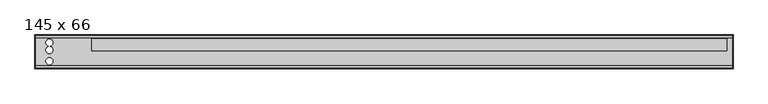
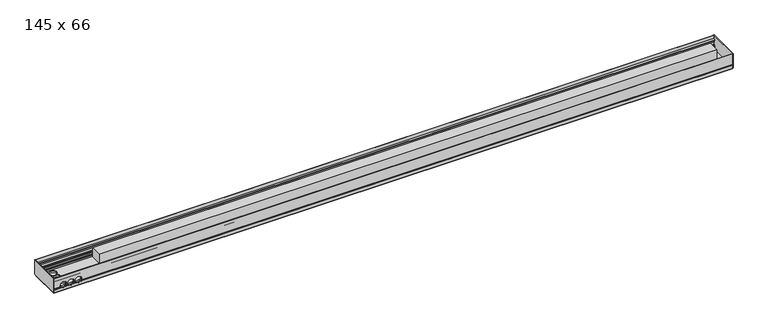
"""IFC4 building model written with IfcOpenShell, lengths in millimetres: proxy geometry, Mohlenhof_Внутрипольный конвектор_QSKM : 145 x 66."""

from ifc_helpers import new_model, si_unit, point, frame, frame_2d, origin, place, context, project, spatial, polyline, circle_curve, ellipse_curve, trimmed, segment, composite_curve, outline, extrude, source, transform, mapped, element, save
from ifc_brep_helpers import plane_surface, revolved_surface, advanced_brep


def proxy_145_x_66_f7945d83(model_context):
    return source(origin(), model_context, "Body", "SolidModel", [
        advanced_brep(
        [(1498.0, -245.0, -48.5473602), (1498.0, -243.5, -49.2468216), (1498.0, -242.5, -49.2468216), (1498.0, -242.5, -46.0008038), (1498.0, -240.0, -46.0008038), (1498.0, -240.0, -56.5008038), (1498.0, -242.5, -56.5008038), (1498.0, -242.5, -53.2468216), (1498.0, -243.5, -53.2468216), (1498.0, -245.0, -53.9462831), (1498.0, -245.0, -66.5), (1498.0, -241.0, -66.5), (1498.0, -241.0, -65.2), (1498.0, -243.0, -65.2), (1498.0, -243.0, -62.5), (1498.0, -232.0, -62.5), (1498.0, -232.0, -54.9172677), (1498.0, -233.4172677, -53.5), (1498.0, -237.0, -53.5), (1498.0, -237.0, -45.91), (1498.0, -239.0, -43.91), (1498.0, -239.0, -39.5), (1498.0, -240.0, -39.5), (1498.0, -240.0, -43.5), (1498.0, -242.4956439, -43.5), (1498.0, -242.4956439, -23.0), (1498.0, -240.0, -23.0), (1498.0, -240.0, -27.0), (1498.0, -239.0, -27.0), (1498.0, -239.0, -17.0), (1498.0, -233.3956439, -17.0), (1498.0, -233.3956439, -15.0), (1498.0, -243.4, -15.0), (1498.0, -243.4, 0.0), (1498.0, -245.0, 0.0), (-1498.0, -245.0, -48.5473602), (-1498.0, -245.0, 0.0), (-1498.0, -243.4, 0.0), (-1498.0, -243.4, -15.0), (-1498.0, -233.3956439, -15.0), (-1498.0, -233.3956439, -17.0), (-1498.0, -239.0, -17.0), (-1498.0, -239.0, -27.0), (-1498.0, -240.0, -27.0), (-1498.0, -240.0, -23.0), (-1498.0, -242.4956439, -23.0), (-1498.0, -242.4956439, -43.5), (-1498.0, -240.0, -43.5), (-1498.0, -240.0, -39.5), (-1498.0, -239.0, -39.5), (-1498.0, -239.0, -43.91), (-1498.0, -237.0, -45.91), (-1498.0, -237.0, -53.5), (-1498.0, -233.4172677, -53.5), (-1498.0, -232.0, -54.9172677), (-1498.0, -232.0, -62.5), (-1498.0, -243.0, -62.5), (-1498.0, -243.0, -65.2), (-1498.0, -241.0, -65.2), (-1498.0, -241.0, -66.5), (-1498.0, -245.0, -66.5), (-1498.0, -245.0, -53.9462831), (-1498.0, -243.5, -53.2468216), (-1498.0, -242.5, -53.2468216), (-1498.0, -242.5, -56.5008038), (-1498.0, -240.0, -56.5008038), (-1498.0, -240.0, -46.0008038), (-1498.0, -242.5, -46.0008038), (-1498.0, -242.5, -49.2468216), (-1498.0, -243.5, -49.2468216), (-1378.7585985, -245.0, -48.5473602), (-1379.155283, -243.5, -49.2468216), (-1470.844717, -243.5, -49.2468216), (-1471.2414015, -245.0, -48.5473602), (-1438.2414015, -245.0, -48.5473602), (-1444.7585985, -245.0, -48.5473602), (-1445.155283, -243.5, -49.2468216), (-1437.844717, -243.5, -49.2468216), (-1405.2414015, -245.0, -48.5473602), (-1411.7585985, -245.0, -48.5473602), (-1412.155283, -243.5, -49.2468216), (-1404.844717, -243.5, -49.2468216), (-1379.155283, -242.5, -49.2468216), (-1470.844717, -242.5, -49.2468216), (-1445.155283, -242.5, -49.2468216), (-1437.844717, -242.5, -49.2468216), (-1412.155283, -242.5, -49.2468216), (-1404.844717, -242.5, -49.2468216), (-1377.6911648, -242.5, -46.0008038), (-1472.3088352, -242.5, -46.0008038), (-1443.6911648, -242.5, -46.0008038), (-1439.3088352, -242.5, -46.0008038), (-1410.6911648, -242.5, -46.0008038), (-1406.3088352, -242.5, -46.0008038), (-1377.6911648, -240.0, -46.0008038), (-1472.3088352, -240.0, -46.0008038), (-1443.6911648, -240.0, -46.0008038), (-1439.3088352, -240.0, -46.0008038), (-1410.6911648, -240.0, -46.0008038), (-1406.3088352, -240.0, -46.0008038), (-1467.328032, -242.5, -53.2468216), (-1448.671968, -242.5, -53.2468216), (-1434.328032, -242.5, -53.2468216), (-1415.671968, -242.5, -53.2468216), (-1401.328032, -242.5, -53.2468216), (-1382.671968, -242.5, -53.2468216), (-1382.671968, -243.5, -53.2468216), (-1467.328032, -243.5, -53.2468216), (-1448.671968, -243.5, -53.2468216), (-1434.328032, -243.5, -53.2468216), (-1415.671968, -243.5, -53.2468216), (-1401.328032, -243.5, -53.2468216), (-1383.6280208, -245.0, -53.9462831), (-1466.3719792, -245.0, -53.9462831), (-1449.6280208, -245.0, -53.9462831), (-1433.3719792, -245.0, -53.9462831), (-1416.6280208, -245.0, -53.9462831), (-1400.3719792, -245.0, -53.9462831), (-1464.7064841, -232.0, -54.9172677), (-1451.2935159, -232.0, -54.9172677), (-1431.7064841, -232.0, -54.9172677), (-1418.2935159, -232.0, -54.9172677), (-1398.7064841, -232.0, -54.9172677), (-1385.2935159, -232.0, -54.9172677), (-1383.0, -233.4172677, -53.5), (-1467.0, -233.4172677, -53.5), (-1449.0, -233.4172677, -53.5), (-1434.0, -233.4172677, -53.5), (-1416.0, -233.4172677, -53.5), (-1401.0, -233.4172677, -53.5), (-1383.0, -237.0, -53.5), (-1467.0, -237.0, -53.5), (-1449.0, -237.0, -53.5), (-1434.0, -237.0, -53.5), (-1416.0, -237.0, -53.5), (-1401.0, -237.0, -53.5), (-1377.6629187, -237.0, -45.91), (-1472.3370813, -237.0, -45.91), (-1443.6629187, -237.0, -45.91), (-1439.3370813, -237.0, -45.91), (-1410.6629187, -237.0, -45.91), (-1406.3370813, -237.0, -45.91), (-1377.1948691, -239.0, -43.91), (-1472.8051309, -239.0, -43.91), (-1443.1948691, -239.0, -43.91), (-1439.8051309, -239.0, -43.91), (-1410.1948691, -239.0, -43.91), (-1406.8051309, -239.0, -43.91), (-1377.0, -239.0, -41.5), (-1377.1339313, -239.0, -39.5), (-1472.8660687, -239.0, -39.5), (-1473.0, -239.0, -41.5), (-1443.0, -239.0, -41.5), (-1443.1339313, -239.0, -39.5), (-1439.8660687, -239.0, -39.5), (-1440.0, -239.0, -41.5), (-1410.0, -239.0, -41.5), (-1410.1339313, -239.0, -39.5), (-1406.8660687, -239.0, -39.5), (-1407.0, -239.0, -41.5), (-1377.1339313, -240.0, -39.5), (-1472.8660687, -240.0, -39.5), (-1443.1339313, -240.0, -39.5), (-1439.8660687, -240.0, -39.5), (-1410.1339313, -240.0, -39.5), (-1406.8660687, -240.0, -39.5), (-1377.0, -240.0, -41.5), (-1377.1339313, -240.0, -43.5), (-1472.8660687, -240.0, -43.5), (-1473.0, -240.0, -41.5), (-1443.0, -240.0, -41.5), (-1443.1339313, -240.0, -43.5), (-1439.8660687, -240.0, -43.5), (-1440.0, -240.0, -41.5), (-1410.0, -240.0, -41.5), (-1410.1339313, -240.0, -43.5), (-1406.8660687, -240.0, -43.5), (-1407.0, -240.0, -41.5), (-1377.1339313, -242.4956439, -43.5), (-1472.8660687, -242.4956439, -43.5), (-1443.1339313, -242.4956439, -43.5), (-1439.8660687, -242.4956439, -43.5), (-1410.1339313, -242.4956439, -43.5), (-1406.8660687, -242.4956439, -43.5), (-1377.0, -242.4956439, -41.5), (-1407.0, -242.4956439, -41.5), (-1410.0, -242.4956439, -41.5), (-1440.0, -242.4956439, -41.5), (-1443.0, -242.4956439, -41.5), (-1473.0, -242.4956439, -41.5), (-1461.8405729, -240.0, -27.0), (-1454.1594271, -240.0, -27.0), (-1428.8405729, -240.0, -27.0), (-1421.1594271, -240.0, -27.0), (-1395.8405729, -240.0, -27.0), (-1388.1594271, -240.0, -27.0), (-1388.1594271, -239.0, -27.0), (-1461.8405729, -239.0, -27.0), (-1454.1594271, -239.0, -27.0), (-1428.8405729, -239.0, -27.0), (-1421.1594271, -239.0, -27.0), (-1395.8405729, -239.0, -27.0), (-1473.0, -245.0, -41.5), (-1443.0, -245.0, -41.5), (-1440.0, -245.0, -41.5), (-1410.0, -245.0, -41.5), (-1407.0, -245.0, -41.5), (-1377.0, -245.0, -41.5)],
        [
            (0, 1),
            (1, 2),
            (2, 3),
            (3, 4),
            (4, 5),
            (5, 6),
            (6, 7),
            (7, 8),
            (8, 9),
            (9, 10),
            (10, 11),
            (11, 12),
            (12, 13),
            (13, 14),
            (14, 15),
            (15, 16),
            (16, 17),
            (17, 18),
            (18, 19),
            (19, 20),
            (20, 21),
            (21, 22),
            (22, 23),
            (23, 24),
            (24, 25),
            (25, 26),
            (26, 27),
            (27, 28),
            (28, 29),
            (29, 30),
            (30, 31),
            (31, 32),
            (32, 33),
            (33, 34),
            (34, 0),
            (35, 36),
            (36, 37),
            (37, 38),
            (38, 39),
            (39, 40),
            (40, 41),
            (41, 42),
            (42, 43),
            (43, 44),
            (44, 45),
            (45, 46),
            (46, 47),
            (47, 48),
            (48, 49),
            (49, 50),
            (50, 51),
            (51, 52),
            (52, 53),
            (53, 54),
            (54, 55),
            (55, 56),
            (56, 57),
            (57, 58),
            (58, 59),
            (59, 60),
            (60, 61),
            (61, 62),
            (62, 63),
            (63, 64),
            (64, 65),
            (65, 66),
            (66, 67),
            (67, 68),
            (68, 69),
            (69, 35),
            (0, 70),
            (70, 71, ellipse_curve(frame((-1392.0, -260.1131126, -41.5), z_axis=(0.0, 0.42261826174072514, 0.9063077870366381), x_axis=(0.0, -0.9063077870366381, 0.42261826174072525)), 35.4930237, 15.0)),
            (71, 1),
            (69, 72),
            (72, 73, ellipse_curve(frame((-1458.0, -260.1131126, -41.5), z_axis=(0.0, 0.42261826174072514, 0.9063077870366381), x_axis=(0.0, -0.9063077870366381, 0.42261826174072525)), 35.4930237, 15.0)),
            (73, 35),
            (74, 75),
            (75, 76, ellipse_curve(frame((-1458.0, -260.1131126, -41.5), z_axis=(0.0, 0.42261826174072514, 0.9063077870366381), x_axis=(0.0, -0.9063077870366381, 0.42261826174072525)), 35.4930237, 15.0)),
            (76, 77),
            (77, 74, ellipse_curve(frame((-1425.0, -260.1131126, -41.5), z_axis=(0.0, 0.42261826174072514, 0.9063077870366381), x_axis=(0.0, -0.9063077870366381, 0.42261826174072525)), 35.4930237, 15.0)),
            (78, 79),
            (79, 80, ellipse_curve(frame((-1425.0, -260.1131126, -41.5), z_axis=(0.0, 0.42261826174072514, 0.9063077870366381), x_axis=(0.0, -0.9063077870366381, 0.42261826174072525)), 35.4930237, 15.0)),
            (80, 81),
            (81, 78, ellipse_curve(frame((-1392.0, -260.1131126, -41.5), z_axis=(0.0, 0.42261826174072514, 0.9063077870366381), x_axis=(0.0, -0.9063077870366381, 0.42261826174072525)), 35.4930237, 15.0)),
            (71, 82),
            (82, 2),
            (68, 83),
            (83, 72),
            (76, 84),
            (84, 85),
            (85, 77),
            (80, 86),
            (86, 87),
            (87, 81),
            (82, 88, circle_curve(frame((-1392.0, -242.5, -41.5), z_axis=(0.0, -1.0, 0.0), x_axis=(1.0, 0.0, 0.0)), 15.0)),
            (88, 3),
            (67, 89),
            (89, 83, circle_curve(frame((-1458.0, -242.5, -41.5), z_axis=(0.0, -1.0, 0.0), x_axis=(1.0, 0.0, 0.0)), 15.0)),
            (84, 90, circle_curve(frame((-1458.0, -242.5, -41.5), z_axis=(0.0, -1.0, 0.0), x_axis=(1.0, 0.0, 0.0)), 15.0)),
            (90, 91),
            (91, 85, circle_curve(frame((-1425.0, -242.5, -41.5), z_axis=(0.0, -1.0, 0.0), x_axis=(1.0, 0.0, 0.0)), 15.0)),
            (86, 92, circle_curve(frame((-1425.0, -242.5, -41.5), z_axis=(0.0, -1.0, 0.0), x_axis=(1.0, 0.0, 0.0)), 15.0)),
            (92, 93),
            (93, 87, circle_curve(frame((-1392.0, -242.5, -41.5), z_axis=(0.0, -1.0, 0.0), x_axis=(1.0, 0.0, 0.0)), 15.0)),
            (88, 94),
            (94, 4),
            (66, 95),
            (95, 89),
            (90, 96),
            (96, 97),
            (97, 91),
            (92, 98),
            (98, 99),
            (99, 93),
            (94, 99, circle_curve(frame((-1392.0, -240.0, -41.5), z_axis=(0.0, 1.0, 0.0), x_axis=(1.0, 0.0, 0.0)), 15.0)),
            (98, 97, circle_curve(frame((-1425.0, -240.0, -41.5), z_axis=(0.0, 1.0, 0.0), x_axis=(1.0, 0.0, 0.0)), 15.0)),
            (96, 95, circle_curve(frame((-1458.0, -240.0, -41.5), z_axis=(0.0, 1.0, 0.0), x_axis=(1.0, 0.0, 0.0)), 15.0)),
            (65, 5),
            (64, 6),
            (63, 100),
            (100, 101, circle_curve(frame((-1458.0, -242.5, -41.5), z_axis=(0.0, -1.0, 0.0), x_axis=(1.0, 0.0, 0.0)), 15.0)),
            (101, 102),
            (102, 103, circle_curve(frame((-1425.0, -242.5, -41.5), z_axis=(0.0, -1.0, 0.0), x_axis=(1.0, 0.0, 0.0)), 15.0)),
            (103, 104),
            (104, 105, circle_curve(frame((-1392.0, -242.5, -41.5), z_axis=(0.0, -1.0, 0.0), x_axis=(1.0, 0.0, 0.0)), 15.0)),
            (105, 7),
            (105, 106),
            (106, 8),
            (62, 107),
            (107, 100),
            (101, 108),
            (108, 109),
            (109, 102),
            (103, 110),
            (110, 111),
            (111, 104),
            (106, 112, ellipse_curve(frame((-1392.0, -218.3088597, -41.5), z_axis=(0.0, 0.42261826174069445, -0.9063077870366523), x_axis=(0.0, -0.9063077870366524, -0.42261826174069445)), 35.4930237, 15.0)),
            (112, 9),
            (61, 113),
            (113, 107, ellipse_curve(frame((-1458.0, -218.3088597, -41.5), z_axis=(0.0, 0.42261826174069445, -0.9063077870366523), x_axis=(0.0, -0.9063077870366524, -0.42261826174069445)), 35.4930237, 15.0)),
            (108, 114, ellipse_curve(frame((-1458.0, -218.3088597, -41.5), z_axis=(0.0, 0.42261826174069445, -0.9063077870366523), x_axis=(0.0, -0.9063077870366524, -0.42261826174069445)), 35.4930237, 15.0)),
            (114, 115),
            (115, 109, ellipse_curve(frame((-1425.0, -218.3088597, -41.5), z_axis=(0.0, 0.42261826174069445, -0.9063077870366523), x_axis=(0.0, -0.9063077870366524, -0.42261826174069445)), 35.4930237, 15.0)),
            (110, 116, ellipse_curve(frame((-1425.0, -218.3088597, -41.5), z_axis=(0.0, 0.42261826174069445, -0.9063077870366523), x_axis=(0.0, -0.9063077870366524, -0.42261826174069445)), 35.4930237, 15.0)),
            (116, 117),
            (117, 111, ellipse_curve(frame((-1392.0, -218.3088597, -41.5), z_axis=(0.0, 0.42261826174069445, -0.9063077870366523), x_axis=(0.0, -0.9063077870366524, -0.42261826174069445)), 35.4930237, 15.0)),
            (112, 117, circle_curve(frame((-1392.0, -245.0, -41.5), z_axis=(0.0, 1.0, 0.0), x_axis=(1.0, 0.0, 0.0)), 15.0)),
            (116, 115, circle_curve(frame((-1425.0, -245.0, -41.5), z_axis=(0.0, 1.0, 0.0), x_axis=(1.0, 0.0, 0.0)), 15.0)),
            (114, 113, circle_curve(frame((-1458.0, -245.0, -41.5), z_axis=(0.0, 1.0, 0.0), x_axis=(1.0, 0.0, 0.0)), 15.0)),
            (60, 10),
            (59, 11),
            (58, 12),
            (57, 13),
            (56, 14),
            (55, 15),
            (54, 118),
            (118, 119, circle_curve(frame((-1458.0, -232.0, -41.5), z_axis=(0.0, -1.0, 0.0), x_axis=(1.0, 0.0, 0.0)), 15.0)),
            (119, 120),
            (120, 121, circle_curve(frame((-1425.0, -232.0, -41.5), z_axis=(0.0, -1.0, 0.0), x_axis=(1.0, 0.0, 0.0)), 15.0)),
            (121, 122),
            (122, 123, circle_curve(frame((-1392.0, -232.0, -41.5), z_axis=(0.0, -1.0, 0.0), x_axis=(1.0, 0.0, 0.0)), 15.0)),
            (123, 16),
            (123, 124, ellipse_curve(frame((-1392.0, -245.4172677, -41.5), z_axis=(0.0, -0.7071067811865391, -0.707106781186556), x_axis=(0.0, -0.7071067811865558, 0.7071067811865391)), 21.2132034, 15.0)),
            (124, 17),
            (53, 125),
            (125, 118, ellipse_curve(frame((-1458.0, -245.4172677, -41.5), z_axis=(0.0, -0.7071067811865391, -0.707106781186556), x_axis=(0.0, -0.7071067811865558, 0.7071067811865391)), 21.2132034, 15.0)),
            (119, 126, ellipse_curve(frame((-1458.0, -245.4172677, -41.5), z_axis=(0.0, -0.7071067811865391, -0.707106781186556), x_axis=(0.0, -0.7071067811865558, 0.7071067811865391)), 21.2132034, 15.0)),
            (126, 127),
            (127, 120, ellipse_curve(frame((-1425.0, -245.4172677, -41.5), z_axis=(0.0, -0.7071067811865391, -0.707106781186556), x_axis=(0.0, -0.7071067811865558, 0.7071067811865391)), 21.2132034, 15.0)),
            (121, 128, ellipse_curve(frame((-1425.0, -245.4172677, -41.5), z_axis=(0.0, -0.7071067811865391, -0.707106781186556), x_axis=(0.0, -0.7071067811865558, 0.7071067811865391)), 21.2132034, 15.0)),
            (128, 129),
            (129, 122, ellipse_curve(frame((-1392.0, -245.4172677, -41.5), z_axis=(0.0, -0.7071067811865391, -0.707106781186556), x_axis=(0.0, -0.7071067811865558, 0.7071067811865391)), 21.2132034, 15.0)),
            (124, 130),
            (130, 18),
            (52, 131),
            (131, 125),
            (126, 132),
            (132, 133),
            (133, 127),
            (128, 134),
            (134, 135),
            (135, 129),
            (130, 136, circle_curve(frame((-1392.0, -237.0, -41.5), z_axis=(0.0, -1.0, 0.0), x_axis=(1.0, 0.0, 0.0)), 15.0)),
            (136, 19),
            (51, 137),
            (137, 131, circle_curve(frame((-1458.0, -237.0, -41.5), z_axis=(0.0, -1.0, 0.0), x_axis=(1.0, 0.0, 0.0)), 15.0)),
            (132, 138, circle_curve(frame((-1458.0, -237.0, -41.5), z_axis=(0.0, -1.0, 0.0), x_axis=(1.0, 0.0, 0.0)), 15.0)),
            (138, 139),
            (139, 133, circle_curve(frame((-1425.0, -237.0, -41.5), z_axis=(0.0, -1.0, 0.0), x_axis=(1.0, 0.0, 0.0)), 15.0)),
            (134, 140, circle_curve(frame((-1425.0, -237.0, -41.5), z_axis=(0.0, -1.0, 0.0), x_axis=(1.0, 0.0, 0.0)), 15.0)),
            (140, 141),
            (141, 135, circle_curve(frame((-1392.0, -237.0, -41.5), z_axis=(0.0, -1.0, 0.0), x_axis=(1.0, 0.0, 0.0)), 15.0)),
            (136, 142, ellipse_curve(frame((-1392.0, -241.41, -41.5), z_axis=(0.0, -0.7071067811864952, -0.7071067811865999), x_axis=(0.0, -0.7071067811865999, 0.7071067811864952)), 21.2132034, 15.0)),
            (142, 20),
            (50, 143),
            (143, 137, ellipse_curve(frame((-1458.0, -241.41, -41.5), z_axis=(0.0, -0.7071067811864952, -0.7071067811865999), x_axis=(0.0, -0.7071067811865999, 0.7071067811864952)), 21.2132034, 15.0)),
            (138, 144, ellipse_curve(frame((-1458.0, -241.41, -41.5), z_axis=(0.0, -0.7071067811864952, -0.7071067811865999), x_axis=(0.0, -0.7071067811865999, 0.7071067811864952)), 21.2132034, 15.0)),
            (144, 145),
            (145, 139, ellipse_curve(frame((-1425.0, -241.41, -41.5), z_axis=(0.0, -0.7071067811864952, -0.7071067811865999), x_axis=(0.0, -0.7071067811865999, 0.7071067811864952)), 21.2132034, 15.0)),
            (140, 146, ellipse_curve(frame((-1425.0, -241.41, -41.5), z_axis=(0.0, -0.7071067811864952, -0.7071067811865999), x_axis=(0.0, -0.7071067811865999, 0.7071067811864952)), 21.2132034, 15.0)),
            (146, 147),
            (147, 141, ellipse_curve(frame((-1392.0, -241.41, -41.5), z_axis=(0.0, -0.7071067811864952, -0.7071067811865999), x_axis=(0.0, -0.7071067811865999, 0.7071067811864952)), 21.2132034, 15.0)),
            (142, 148, circle_curve(frame((-1392.0, -239.0, -41.5), z_axis=(0.0, -1.0, 0.0), x_axis=(1.0, 0.0, 0.0)), 15.0)),
            (148, 149, circle_curve(frame((-1392.0, -239.0, -41.5), z_axis=(0.0, -1.0, 0.0), x_axis=(1.0, 0.0, 0.0)), 15.0)),
            (149, 21),
            (49, 150),
            (150, 151, circle_curve(frame((-1458.0, -239.0, -41.5), z_axis=(0.0, -1.0, 0.0), x_axis=(1.0, 0.0, 0.0)), 15.0)),
            (151, 143, circle_curve(frame((-1458.0, -239.0, -41.5), z_axis=(0.0, -1.0, 0.0), x_axis=(1.0, 0.0, 0.0)), 15.0)),
            (144, 152, circle_curve(frame((-1458.0, -239.0, -41.5), z_axis=(0.0, -1.0, 0.0), x_axis=(1.0, 0.0, 0.0)), 15.0)),
            (152, 153, circle_curve(frame((-1458.0, -239.0, -41.5), z_axis=(0.0, -1.0, 0.0), x_axis=(1.0, 0.0, 0.0)), 15.0)),
            (153, 154),
            (154, 155, circle_curve(frame((-1425.0, -239.0, -41.5), z_axis=(0.0, -1.0, 0.0), x_axis=(1.0, 0.0, 0.0)), 15.0)),
            (155, 145, circle_curve(frame((-1425.0, -239.0, -41.5), z_axis=(0.0, -1.0, 0.0), x_axis=(1.0, 0.0, 0.0)), 15.0)),
            (146, 156, circle_curve(frame((-1425.0, -239.0, -41.5), z_axis=(0.0, -1.0, 0.0), x_axis=(1.0, 0.0, 0.0)), 15.0)),
            (156, 157, circle_curve(frame((-1425.0, -239.0, -41.5), z_axis=(0.0, -1.0, 0.0), x_axis=(1.0, 0.0, 0.0)), 15.0)),
            (157, 158),
            (158, 159, circle_curve(frame((-1392.0, -239.0, -41.5), z_axis=(0.0, -1.0, 0.0), x_axis=(1.0, 0.0, 0.0)), 15.0)),
            (159, 147, circle_curve(frame((-1392.0, -239.0, -41.5), z_axis=(0.0, -1.0, 0.0), x_axis=(1.0, 0.0, 0.0)), 15.0)),
            (149, 160),
            (160, 22),
            (48, 161),
            (161, 150),
            (153, 162),
            (162, 163),
            (163, 154),
            (157, 164),
            (164, 165),
            (165, 158),
            (160, 166, circle_curve(frame((-1392.0, -240.0, -41.5), z_axis=(0.0, 1.0, 0.0), x_axis=(1.0, 0.0, 0.0)), 15.0)),
            (166, 167, circle_curve(frame((-1392.0, -240.0, -41.5), z_axis=(0.0, 1.0, 0.0), x_axis=(1.0, 0.0, 0.0)), 15.0)),
            (167, 23),
            (47, 168),
            (168, 169, circle_curve(frame((-1458.0, -240.0, -41.5), z_axis=(0.0, 1.0, 0.0), x_axis=(1.0, 0.0, 0.0)), 15.0)),
            (169, 161, circle_curve(frame((-1458.0, -240.0, -41.5), z_axis=(0.0, 1.0, 0.0), x_axis=(1.0, 0.0, 0.0)), 15.0)),
            (162, 170, circle_curve(frame((-1458.0, -240.0, -41.5), z_axis=(0.0, 1.0, 0.0), x_axis=(1.0, 0.0, 0.0)), 15.0)),
            (170, 171, circle_curve(frame((-1458.0, -240.0, -41.5), z_axis=(0.0, 1.0, 0.0), x_axis=(1.0, 0.0, 0.0)), 15.0)),
            (171, 172),
            (172, 173, circle_curve(frame((-1425.0, -240.0, -41.5), z_axis=(0.0, 1.0, 0.0), x_axis=(1.0, 0.0, 0.0)), 15.0)),
            (173, 163, circle_curve(frame((-1425.0, -240.0, -41.5), z_axis=(0.0, 1.0, 0.0), x_axis=(1.0, 0.0, 0.0)), 15.0)),
            (164, 174, circle_curve(frame((-1425.0, -240.0, -41.5), z_axis=(0.0, 1.0, 0.0), x_axis=(1.0, 0.0, 0.0)), 15.0)),
            (174, 175, circle_curve(frame((-1425.0, -240.0, -41.5), z_axis=(0.0, 1.0, 0.0), x_axis=(1.0, 0.0, 0.0)), 15.0)),
            (175, 176),
            (176, 177, circle_curve(frame((-1392.0, -240.0, -41.5), z_axis=(0.0, 1.0, 0.0), x_axis=(1.0, 0.0, 0.0)), 15.0)),
            (177, 165, circle_curve(frame((-1392.0, -240.0, -41.5), z_axis=(0.0, 1.0, 0.0), x_axis=(1.0, 0.0, 0.0)), 15.0)),
            (167, 178),
            (178, 24),
            (46, 179),
            (179, 168),
            (171, 180),
            (180, 181),
            (181, 172),
            (175, 182),
            (182, 183),
            (183, 176),
            (178, 184, circle_curve(frame((-1392.0, -242.4956439, -41.5), z_axis=(0.0, -1.0, 0.0), x_axis=(1.0, 0.0, 0.0)), 15.0)),
            (184, 185, circle_curve(frame((-1392.0, -242.4956439, -41.5), z_axis=(0.0, -1.0, 0.0), x_axis=(1.0, 0.0, 0.0)), 15.0)),
            (185, 183, circle_curve(frame((-1392.0, -242.4956439, -41.5), z_axis=(0.0, -1.0, 0.0), x_axis=(1.0, 0.0, 0.0)), 15.0)),
            (182, 186, circle_curve(frame((-1425.0, -242.4956439, -41.5), z_axis=(0.0, -1.0, 0.0), x_axis=(1.0, 0.0, 0.0)), 15.0)),
            (186, 187, circle_curve(frame((-1425.0, -242.4956439, -41.5), z_axis=(0.0, -1.0, 0.0), x_axis=(1.0, 0.0, 0.0)), 15.0)),
            (187, 181, circle_curve(frame((-1425.0, -242.4956439, -41.5), z_axis=(0.0, -1.0, 0.0), x_axis=(1.0, 0.0, 0.0)), 15.0)),
            (180, 188, circle_curve(frame((-1458.0, -242.4956439, -41.5), z_axis=(0.0, -1.0, 0.0), x_axis=(1.0, 0.0, 0.0)), 15.0)),
            (188, 189, circle_curve(frame((-1458.0, -242.4956439, -41.5), z_axis=(0.0, -1.0, 0.0), x_axis=(1.0, 0.0, 0.0)), 15.0)),
            (189, 179, circle_curve(frame((-1458.0, -242.4956439, -41.5), z_axis=(0.0, -1.0, 0.0), x_axis=(1.0, 0.0, 0.0)), 15.0)),
            (45, 25),
            (44, 26),
            (43, 190),
            (190, 191, circle_curve(frame((-1458.0, -240.0, -41.5), z_axis=(0.0, 1.0, 0.0), x_axis=(1.0, 0.0, 0.0)), 15.0)),
            (191, 192),
            (192, 193, circle_curve(frame((-1425.0, -240.0, -41.5), z_axis=(0.0, 1.0, 0.0), x_axis=(1.0, 0.0, 0.0)), 15.0)),
            (193, 194),
            (194, 195, circle_curve(frame((-1392.0, -240.0, -41.5), z_axis=(0.0, 1.0, 0.0), x_axis=(1.0, 0.0, 0.0)), 15.0)),
            (195, 27),
            (195, 196),
            (196, 28),
            (42, 197),
            (197, 190),
            (191, 198),
            (198, 199),
            (199, 192),
            (193, 200),
            (200, 201),
            (201, 194),
            (196, 201, circle_curve(frame((-1392.0, -239.0, -41.5), z_axis=(0.0, -1.0, 0.0), x_axis=(1.0, 0.0, 0.0)), 15.0)),
            (200, 199, circle_curve(frame((-1425.0, -239.0, -41.5), z_axis=(0.0, -1.0, 0.0), x_axis=(1.0, 0.0, 0.0)), 15.0)),
            (198, 197, circle_curve(frame((-1458.0, -239.0, -41.5), z_axis=(0.0, -1.0, 0.0), x_axis=(1.0, 0.0, 0.0)), 15.0)),
            (41, 29),
            (40, 30),
            (39, 31),
            (38, 32),
            (37, 33),
            (36, 34),
            (73, 202, circle_curve(frame((-1458.0, -245.0, -41.5), z_axis=(0.0, 1.0, 0.0), x_axis=(1.0, 0.0, 0.0)), 15.0)),
            (202, 203, circle_curve(frame((-1458.0, -245.0, -41.5), z_axis=(0.0, 1.0, 0.0), x_axis=(1.0, 0.0, 0.0)), 15.0)),
            (203, 75, circle_curve(frame((-1458.0, -245.0, -41.5), z_axis=(0.0, 1.0, 0.0), x_axis=(1.0, 0.0, 0.0)), 15.0)),
            (74, 204, circle_curve(frame((-1425.0, -245.0, -41.5), z_axis=(0.0, 1.0, 0.0), x_axis=(1.0, 0.0, 0.0)), 15.0)),
            (204, 205, circle_curve(frame((-1425.0, -245.0, -41.5), z_axis=(0.0, 1.0, 0.0), x_axis=(1.0, 0.0, 0.0)), 15.0)),
            (205, 79, circle_curve(frame((-1425.0, -245.0, -41.5), z_axis=(0.0, 1.0, 0.0), x_axis=(1.0, 0.0, 0.0)), 15.0)),
            (78, 206, circle_curve(frame((-1392.0, -245.0, -41.5), z_axis=(0.0, 1.0, 0.0), x_axis=(1.0, 0.0, 0.0)), 15.0)),
            (206, 207, circle_curve(frame((-1392.0, -245.0, -41.5), z_axis=(0.0, 1.0, 0.0), x_axis=(1.0, 0.0, 0.0)), 15.0)),
            (207, 70, circle_curve(frame((-1392.0, -245.0, -41.5), z_axis=(0.0, 1.0, 0.0), x_axis=(1.0, 0.0, 0.0)), 15.0)),
            (151, 169),
            (189, 202),
            (203, 188),
            (170, 152),
            (155, 173),
            (187, 204),
            (205, 186),
            (174, 156),
            (159, 177),
            (185, 206),
            (207, 184),
            (166, 148),
        ],
        [
            plane_surface(frame((1498.0, -243.0, -62.5), z_axis=(1.0, 0.0, 0.0), x_axis=(0.0, 0.0, 1.0))),
            plane_surface(frame((-1498.0, -243.0, -62.5), z_axis=(-1.0, 0.0, 0.0), x_axis=(0.0, 0.0, 1.0))),
            plane_surface(frame((1498.0, -245.0, -48.5473602), z_axis=(0.0, -0.42261826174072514, -0.9063077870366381), x_axis=(-1.0, 0.0, 0.0))),
            plane_surface(frame((1498.0, -243.5, -49.2468216), z_axis=(0.0, 0.0, -1.0), x_axis=(-1.0, 0.0, 0.0))),
            plane_surface(frame((1498.0, -242.5, -49.2468216), z_axis=(0.0, 1.0, 0.0), x_axis=(-1.0, 0.0, 0.0))),
            plane_surface(frame((1498.0, -242.5, -46.0008038), z_axis=(0.0, 0.0, -1.0), x_axis=(-1.0, 0.0, 0.0))),
            plane_surface(frame((1498.0, -240.0, -46.0008038), z_axis=(0.0, -1.0, 0.0), x_axis=(-1.0, 0.0, 0.0))),
            plane_surface(frame((1498.0, -240.0, -56.5008038), z_axis=(0.0, 0.0, 1.0), x_axis=(-1.0, 0.0, 0.0))),
            plane_surface(frame((1498.0, -242.5, -56.5008038), z_axis=(0.0, 1.0, 0.0), x_axis=(-1.0, 0.0, 0.0))),
            plane_surface(frame((1498.0, -242.5, -53.2468216), z_axis=(0.0, 0.0, 1.0), x_axis=(-1.0, 0.0, 0.0))),
            plane_surface(frame((1498.0, -243.5, -53.2468216), z_axis=(0.0, -0.42261826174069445, 0.9063077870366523), x_axis=(-1.0, 0.0, 0.0))),
            plane_surface(frame((1498.0, -245.0, -53.9462831), z_axis=(0.0, -1.0, 0.0), x_axis=(-1.0, 0.0, 0.0))),
            plane_surface(frame((1498.0, -245.0, -66.5), z_axis=(0.0, 0.0, -1.0), x_axis=(-1.0, 0.0, 0.0))),
            plane_surface(frame((1498.0, -241.0, -66.5), z_axis=(0.0, 1.0, 0.0), x_axis=(-1.0, 0.0, 0.0))),
            plane_surface(frame((1498.0, -241.0, -65.2), z_axis=(0.0, 0.0, 1.0), x_axis=(-1.0, 0.0, 0.0))),
            plane_surface(frame((1498.0, -243.0, -65.2), z_axis=(0.0, 1.0, 0.0), x_axis=(-1.0, 0.0, 0.0))),
            plane_surface(frame((1498.0, -243.0, -62.5), z_axis=(0.0, 0.0, -1.0), x_axis=(-1.0, 0.0, 0.0))),
            plane_surface(frame((1498.0, -232.0, -62.5), z_axis=(0.0, 1.0, 0.0), x_axis=(-1.0, 0.0, 0.0))),
            plane_surface(frame((1498.0, -232.0, -54.9172677), z_axis=(0.0, 0.7071067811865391, 0.707106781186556), x_axis=(-1.0, 0.0, 0.0))),
            plane_surface(frame((1498.0, -233.4172677, -53.5), z_axis=(0.0, 0.0, 1.0), x_axis=(-1.0, 0.0, 0.0))),
            plane_surface(frame((1498.0, -237.0, -53.5), z_axis=(0.0, 1.0, 0.0), x_axis=(-1.0, 0.0, 0.0))),
            plane_surface(frame((1498.0, -237.0, -45.91), z_axis=(0.0, 0.7071067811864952, 0.7071067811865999), x_axis=(-1.0, 0.0, 0.0))),
            plane_surface(frame((1498.0, -239.0, -43.91), z_axis=(0.0, 1.0, 0.0), x_axis=(-1.0, 0.0, 0.0))),
            plane_surface(frame((1498.0, -239.0, -39.5), z_axis=(0.0, 0.0, 1.0), x_axis=(-1.0, 0.0, 0.0))),
            plane_surface(frame((1498.0, -240.0, -39.5), z_axis=(0.0, -1.0, 0.0), x_axis=(-1.0, 0.0, 0.0))),
            plane_surface(frame((1498.0, -240.0, -43.5), z_axis=(0.0, 0.0, 1.0), x_axis=(-1.0, 0.0, 0.0))),
            plane_surface(frame((1498.0, -242.4956439, -43.5), z_axis=(0.0, 1.0, 0.0), x_axis=(-1.0, 0.0, 0.0))),
            plane_surface(frame((1498.0, -242.4956439, -23.0), z_axis=(0.0, 0.0, -1.0), x_axis=(-1.0, 0.0, 0.0))),
            plane_surface(frame((1498.0, -240.0, -23.0), z_axis=(0.0, -1.0, 0.0), x_axis=(-1.0, 0.0, 0.0))),
            plane_surface(frame((1498.0, -240.0, -27.0), z_axis=(0.0, 0.0, -1.0), x_axis=(-1.0, 0.0, 0.0))),
            plane_surface(frame((1498.0, -239.0, -27.0), z_axis=(0.0, 1.0, 0.0), x_axis=(-1.0, 0.0, 0.0))),
            plane_surface(frame((1498.0, -239.0, -17.0), z_axis=(0.0, 0.0, -1.0), x_axis=(-1.0, 0.0, 0.0))),
            plane_surface(frame((1498.0, -233.3956439, -17.0), z_axis=(0.0, 1.0, 0.0), x_axis=(-1.0, 0.0, 0.0))),
            plane_surface(frame((1498.0, -233.3956439, -15.0), z_axis=(0.0, 0.0, 1.0), x_axis=(-1.0, 0.0, 0.0))),
            plane_surface(frame((1498.0, -243.4, -15.0), z_axis=(0.0, 1.0, 0.0), x_axis=(-1.0, 0.0, 0.0))),
            plane_surface(frame((1498.0, -243.4, 0.0), z_axis=(0.0, 0.0, 1.0), x_axis=(-1.0, 0.0, 0.0))),
            plane_surface(frame((1498.0, -245.0, 0.0), z_axis=(0.0, -1.0, 0.0), x_axis=(-1.0, 0.0, 0.0))),
            revolved_surface(polyline([(-1443.0, -250.47646346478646, -41.5), (-1443.0, -186.14125593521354, -41.5)]), (-1458.0, -213.0, -41.5), (0.0, -1.0, 0.0)),
            revolved_surface(polyline([(-1443.0, -292.280716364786, -41.5), (-1443.0, -226.41000002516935, -41.5)]), (-1458.0, -213.0, -41.5), (0.0, -1.0, 0.0)),
            revolved_surface(polyline([(-1443.0, -240.0, -41.5), (-1443.0, -239.0, -41.5)]), (-1458.0, -213.0, -41.5), (0.0, -1.0, 0.0)),
            revolved_surface(polyline([(-1443.0, -245.0, -41.5), (-1443.0, -242.4956439, -41.5)]), (-1458.0, -213.0, -41.5), (0.0, -1.0, 0.0)),
            revolved_surface(polyline([(-1410.0, -250.47646346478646, -41.5), (-1410.0, -186.14125593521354, -41.5)]), (-1425.0, 0.0, -41.5), (0.0, -1.0, 0.0)),
            revolved_surface(polyline([(-1410.0, -292.280716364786, -41.5), (-1410.0, -226.41000002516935, -41.5)]), (-1425.0, 0.0, -41.5), (0.0, -1.0, 0.0)),
            revolved_surface(polyline([(-1410.0, -240.0, -41.5), (-1410.0, -239.0, -41.5)]), (-1425.0, 0.0, -41.5), (0.0, -1.0, 0.0)),
            revolved_surface(polyline([(-1410.0, -245.0, -41.5), (-1410.0, -242.4956439, -41.5)]), (-1425.0, 0.0, -41.5), (0.0, -1.0, 0.0)),
            revolved_surface(polyline([(-1377.0, -250.47646346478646, -41.5), (-1377.0, -186.14125593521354, -41.5)]), (-1392.0, 0.0, -41.5), (0.0, -1.0, 0.0)),
            revolved_surface(polyline([(-1377.0, -292.280716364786, -41.5), (-1377.0, -226.41000002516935, -41.5)]), (-1392.0, 0.0, -41.5), (0.0, -1.0, 0.0)),
            revolved_surface(polyline([(-1377.0, -240.0, -41.5), (-1377.0, -239.0, -41.5)]), (-1392.0, 0.0, -41.5), (0.0, -1.0, 0.0)),
            revolved_surface(polyline([(-1377.0, -245.0, -41.5), (-1377.0, -242.4956439, -41.5)]), (-1392.0, 0.0, -41.5), (0.0, -1.0, 0.0)),
        ],
        [
            (0, [[1, 2, 3, 4, 5, 6, 7, 8, 9, 10, 11, 12, 13, 14, 15, 16, 17, 18, 19, 20, 21, 22, 23, 24, 25, 26, 27, 28, 29, 30, 31, 32, 33, 34, 35]]),
            (1, [[36, 37, 38, 39, 40, 41, 42, 43, 44, 45, 46, 47, 48, 49, 50, 51, 52, 53, 54, 55, 56, 57, 58, 59, 60, 61, 62, 63, 64, 65, 66, 67, 68, 69, 70]]),
            (2, [[-1, 71, 72, 73]]),
            (2, [[-70, 74, 75, 76]]),
            (2, [[77, 78, 79, 80]]),
            (2, [[81, 82, 83, 84]]),
            (3, [[-2, -73, 85, 86]]),
            (3, [[-69, 87, 88, -74]]),
            (3, [[-79, 89, 90, 91]]),
            (3, [[-83, 92, 93, 94]]),
            (4, [[-3, -86, 95, 96]]),
            (4, [[-68, 97, 98, -87]]),
            (4, [[-90, 99, 100, 101]]),
            (4, [[-93, 102, 103, 104]]),
            (5, [[-4, -96, 105, 106]]),
            (5, [[-67, 107, 108, -97]]),
            (5, [[-100, 109, 110, 111]]),
            (5, [[-103, 112, 113, 114]]),
            (6, [[-5, -106, 115, -113, 116, -110, 117, -107, -66, 118]]),
            (7, [[-6, -118, -65, 119]]),
            (8, [[-7, -119, -64, 120, 121, 122, 123, 124, 125, 126]]),
            (9, [[-8, -126, 127, 128]]),
            (9, [[-63, 129, 130, -120]]),
            (9, [[-122, 131, 132, 133]]),
            (9, [[-124, 134, 135, 136]]),
            (10, [[-9, -128, 137, 138]]),
            (10, [[-62, 139, 140, -129]]),
            (10, [[-132, 141, 142, 143]]),
            (10, [[-135, 144, 145, 146]]),
            (11, [[-10, -138, 147, -145, 148, -142, 149, -139, -61, 150]]),
            (12, [[-11, -150, -60, 151]]),
            (13, [[-12, -151, -59, 152]]),
            (14, [[-13, -152, -58, 153]]),
            (15, [[-14, -153, -57, 154]]),
            (16, [[-15, -154, -56, 155]]),
            (17, [[-16, -155, -55, 156, 157, 158, 159, 160, 161, 162]]),
            (18, [[-17, -162, 163, 164]]),
            (18, [[-54, 165, 166, -156]]),
            (18, [[-158, 167, 168, 169]]),
            (18, [[-160, 170, 171, 172]]),
            (19, [[-18, -164, 173, 174]]),
            (19, [[-53, 175, 176, -165]]),
            (19, [[-168, 177, 178, 179]]),
            (19, [[-171, 180, 181, 182]]),
            (20, [[-19, -174, 183, 184]]),
            (20, [[-52, 185, 186, -175]]),
            (20, [[-178, 187, 188, 189]]),
            (20, [[-181, 190, 191, 192]]),
            (21, [[-20, -184, 193, 194]]),
            (21, [[-51, 195, 196, -185]]),
            (21, [[-188, 197, 198, 199]]),
            (21, [[-191, 200, 201, 202]]),
            (22, [[-21, -194, 203, 204, 205]]),
            (22, [[-50, 206, 207, 208, -195]]),
            (22, [[-198, 209, 210, 211, 212, 213]]),
            (22, [[-201, 214, 215, 216, 217, 218]]),
            (23, [[-22, -205, 219, 220]]),
            (23, [[-49, 221, 222, -206]]),
            (23, [[-211, 223, 224, 225]]),
            (23, [[-216, 226, 227, 228]]),
            (24, [[-23, -220, 229, 230, 231]]),
            (24, [[-48, 232, 233, 234, -221]]),
            (24, [[-224, 235, 236, 237, 238, 239]]),
            (24, [[-227, 240, 241, 242, 243, 244]]),
            (25, [[-24, -231, 245, 246]]),
            (25, [[-47, 247, 248, -232]]),
            (25, [[-237, 249, 250, 251]]),
            (25, [[-242, 252, 253, 254]]),
            (26, [[-25, -246, 255, 256, 257, -253, 258, 259, 260, -250, 261, 262, 263, -247, -46, 264]]),
            (27, [[-26, -264, -45, 265]]),
            (28, [[-27, -265, -44, 266, 267, 268, 269, 270, 271, 272]]),
            (29, [[-28, -272, 273, 274]]),
            (29, [[-43, 275, 276, -266]]),
            (29, [[-268, 277, 278, 279]]),
            (29, [[-270, 280, 281, 282]]),
            (30, [[-29, -274, 283, -281, 284, -278, 285, -275, -42, 286]]),
            (31, [[-30, -286, -41, 287]]),
            (32, [[-31, -287, -40, 288]]),
            (33, [[-32, -288, -39, 289]]),
            (34, [[-33, -289, -38, 290]]),
            (35, [[-34, -290, -37, 291]]),
            (36, [[-35, -291, -36, -76, 292, 293, 294, -77, 295, 296, 297, -81, 298, 299, 300, -71]]),
            (37, [[-121, -130, -140, -149, -141, -131]]),
            (38, [[301, -233, -248, -263, 302, -292, -75, -88, -98, -108, -117, -109, -99, -89, -78, -294, 303, -261, -249, -236, 304, -209, -197, -187, -177, -167, -157, -166, -176, -186, -196, -208]]),
            (39, [[-267, -276, -285, -277]]),
            (39, [[-301, -207, -222, -234]]),
            (40, [[-302, -262, -303, -293]]),
            (39, [[-304, -235, -223, -210]]),
            (41, [[-123, -133, -143, -148, -144, -134]]),
            (42, [[305, -238, -251, -260, 306, -295, -80, -91, -101, -111, -116, -112, -102, -92, -82, -297, 307, -258, -252, -241, 308, -214, -200, -190, -180, -170, -159, -169, -179, -189, -199, -213]]),
            (43, [[-269, -279, -284, -280]]),
            (43, [[-305, -212, -225, -239]]),
            (44, [[-306, -259, -307, -296]]),
            (43, [[-308, -240, -226, -215]]),
            (45, [[-125, -136, -146, -147, -137, -127]]),
            (46, [[309, -243, -254, -257, 310, -298, -84, -94, -104, -114, -115, -105, -95, -85, -72, -300, 311, -255, -245, -230, 312, -203, -193, -183, -173, -163, -161, -172, -182, -192, -202, -218]]),
            (47, [[-271, -282, -283, -273]]),
            (47, [[-309, -217, -228, -244]]),
            (48, [[-310, -256, -311, -299]]),
            (47, [[-312, -229, -219, -204]]),
        ],
    ),
        extrude(outline(polyline([(-100.0, -48.5473602), (-101.5, -49.2468216), (-102.5, -49.2468216), (-102.5, -46.0008038), (-105.0, -46.0008038), (-105.0, -56.5008038), (-102.5, -56.5008038), (-102.5, -53.2468216), (-101.5, -53.2468216), (-100.0, -53.9462831), (-100.0, -66.5), (-104.0, -66.5), (-104.0, -65.2), (-102.0, -65.2), (-102.0, -62.5), (-113.0, -62.5), (-113.0, -54.9172677), (-111.5827323, -53.5), (-108.0, -53.5), (-108.0, -45.91), (-106.0, -43.91), (-106.0, -39.5), (-105.0, -39.5), (-105.0, -43.5), (-102.5043561, -43.5), (-102.5043561, -23.0), (-105.0, -23.0), (-105.0, -27.0), (-106.0, -27.0), (-106.0, -17.0), (-111.6043561, -17.0), (-111.6043561, -15.0), (-101.6, -15.0), (-101.6, 0.0), (-100.0, 0.0), (-100.0, -48.5473602)])), frame((-1498.0, 0.0, 0.0), z_axis=(1.0, 0.0, 0.0), x_axis=(0.0, 1.0, 0.0)), (0.0, 0.0, 1.0), 2996.0),
        extrude(outline(polyline([(1498.0, -104.499991), (1498.0, -240.5), (-1498.0, -240.5), (-1498.0, -104.499991), (1498.0, -104.499991)]), holes=[composite_curve([segment(trimmed(circle_curve(frame_2d((-1438.0, -133.0)), 15.0), [point((-1453.0, -133.0))], [point((-1423.0, -133.0))], True, "CARTESIAN"), True, "CONTINUOUS"), segment(trimmed(circle_curve(frame_2d((-1438.0, -133.0)), 15.0), [point((-1423.0, -133.0))], [point((-1453.0, -133.0))], True, "CARTESIAN"), True, "CONTINUOUS")], self_intersect=False), composite_curve([segment(trimmed(circle_curve(frame_2d((-1438.0, -165.0)), 15.0), [point((-1453.0, -165.0))], [point((-1423.0, -165.0))], True, "CARTESIAN"), True, "CONTINUOUS"), segment(trimmed(circle_curve(frame_2d((-1438.0, -165.0)), 15.0), [point((-1423.0, -165.0))], [point((-1453.0, -165.0))], True, "CARTESIAN"), True, "CONTINUOUS")], self_intersect=False), composite_curve([segment(trimmed(circle_curve(frame_2d((-1438.0, -213.0)), 15.0), [point((-1453.0, -213.0))], [point((-1423.0, -213.0))], True, "CARTESIAN"), True, "CONTINUOUS"), segment(trimmed(circle_curve(frame_2d((-1438.0, -213.0)), 15.0), [point((-1423.0, -213.0))], [point((-1453.0, -213.0))], True, "CARTESIAN"), True, "CONTINUOUS")], self_intersect=False)]), frame((0.0, 0.0, -71.5), z_axis=(0.0, 0.0, 1.0), x_axis=(1.0, 0.0, 0.0)), (0.0, 0.0, 1.0), 6.3),
        extrude(outline(polyline([(1498.0, -102.0), (1498.0, -243.0), (-1498.0, -243.0), (-1498.0, -102.0), (1498.0, -102.0)]), holes=[composite_curve([segment(trimmed(circle_curve(frame_2d((-1438.0, -133.0)), 15.0), [point((-1453.0, -133.0))], [point((-1423.0, -133.0))], True, "CARTESIAN"), True, "CONTINUOUS"), segment(trimmed(circle_curve(frame_2d((-1438.0, -133.0)), 15.0), [point((-1423.0, -133.0))], [point((-1453.0, -133.0))], True, "CARTESIAN"), True, "CONTINUOUS")], self_intersect=False), composite_curve([segment(trimmed(circle_curve(frame_2d((-1438.0, -165.0)), 15.0), [point((-1453.0, -165.0))], [point((-1423.0, -165.0))], True, "CARTESIAN"), True, "CONTINUOUS"), segment(trimmed(circle_curve(frame_2d((-1438.0, -165.0)), 15.0), [point((-1423.0, -165.0))], [point((-1453.0, -165.0))], True, "CARTESIAN"), True, "CONTINUOUS")], self_intersect=False), composite_curve([segment(trimmed(circle_curve(frame_2d((-1438.0, -213.0)), 15.0), [point((-1453.0, -213.0))], [point((-1423.0, -213.0))], True, "CARTESIAN"), True, "CONTINUOUS"), segment(trimmed(circle_curve(frame_2d((-1438.0, -213.0)), 15.0), [point((-1423.0, -213.0))], [point((-1453.0, -213.0))], True, "CARTESIAN"), True, "CONTINUOUS")], self_intersect=False)]), frame((0.0, 0.0, -65.2), z_axis=(0.0, 0.0, 1.0), x_axis=(1.0, 0.0, 0.0)), (0.0, 0.0, 1.0), 2.7),
        extrude(outline(polyline([(1473.0, -117.0), (1473.0, -167.0), (-1255.0, -167.0), (-1255.0, -117.0), (1473.0, -117.0)])), frame((0.0, 0.0, -62.5), z_axis=(0.0, 0.0, 1.0), x_axis=(1.0, 0.0, 0.0)), (0.0, 0.0, 1.0), 43.0),
        extrude(outline(polyline([(1500.0, -245.0), (1498.0, -245.0), (1498.0, -100.0), (1500.0, -100.0), (1500.0, -245.0)])), frame((0.0, 0.0, -66.5), z_axis=(0.0, 0.0, 1.0), x_axis=(1.0, 0.0, 0.0)), (0.0, 0.0, 1.0), 66.5),
        extrude(outline(polyline([(-1498.0, -100.0), (-1498.0, -245.0), (-1500.0, -245.0), (-1500.0, -100.0), (-1498.0, -100.0)])), frame((0.0, 0.0, -66.5), z_axis=(0.0, 0.0, 1.0), x_axis=(1.0, 0.0, 0.0)), (0.0, 0.0, 1.0), 66.5),
    ])


if __name__ == "__main__":
    model = new_model("IFC4")
    model_context = context("Model", 3, world=origin())
    ifc_project = project(units=[si_unit("LENGTHUNIT", "METRE", prefix="MILLI")], contexts=[model_context])
    site = spatial("IfcSite", under=ifc_project)
    building = spatial("IfcBuilding", under=site)
    placement = place(None, origin())
    proxy_145_x_66_shape = proxy_145_x_66_f7945d83(model_context)
    element("IfcBuildingElementProxy", 1, Name="Mohlenhof_Внутрипольный конвектор_QSKM : 145 x 66", ObjectType="Mohlenhof_Внутрипольный конвектор_QSKM : 145 x 66", at=placement, inside=building, context=model_context, shape_type="MappedRepresentation", body=[
        mapped(proxy_145_x_66_shape, transform((0.0, 0.0, 0.0), x_axis=(1.0, 0.0, 0.0), y_axis=(0.0, 1.0, 0.0), z_axis=(0.0, 0.0, 1.0))),
    ])
    save(model, "model.ifc")
